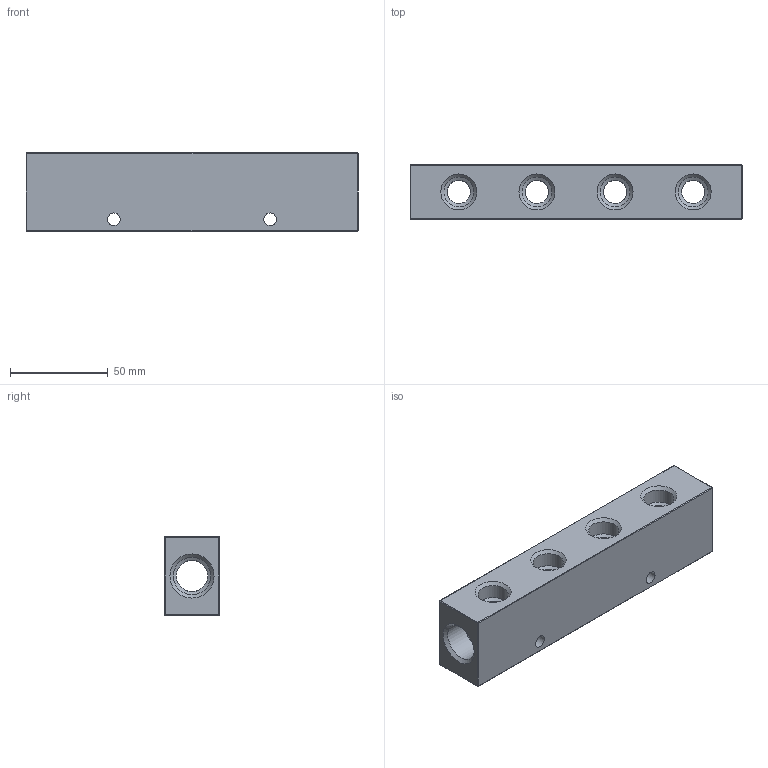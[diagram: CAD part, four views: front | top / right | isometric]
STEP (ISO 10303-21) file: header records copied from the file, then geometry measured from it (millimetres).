
FILE_DESCRIPTION(/* description */ (''),/* implementation_level */ '2;1');
FILE_NAME(/* name */ 'S:\_Tecnico\ArchivioUT\_Disegni3D ingombri\DISEGNI 3D per ingombri\RL\RL52123844.stp',/* time_stamp */ '2020-02-20T14:24:58+01:00',/* author */ ('UfficioTecnico'),/* organization */ (''),/* preprocessor_version */ 'ST-DEVELOPER v18',/* originating_system */ 'Autodesk Inventor 2020',/* authorisation */ '');
FILE_SCHEMA (('AUTOMOTIVE_DESIGN { 1 0 10303 214 3 1 1 }'));
Length unit declared in the file: millimetre
Products named in the file (1): RL51123804
Bounding box: 170 x 28 x 40 mm (x, y, z)
Volume: 134192.1 mm3; surface area: 36856.5 mm2
Topology: 1 solids, 1 shells, 67 faces, 169 edges, 104 vertices
Faces by surface type: cylinder 33, cone 20, sphere 8, plane 6
Full cylindrical faces by diameter (mm): 6.5 x2, 12 x8, 15.395 x8, 16 x1, 19.172 x2
Entity records: 2412 total; most frequent: CARTESIAN_POINT 677, DIRECTION 377, ORIENTED_EDGE 338, EDGE_CURVE 169, AXIS2_PLACEMENT_3D 156, VERTEX_POINT 104, EDGE_LOOP 89, CIRCLE 88
